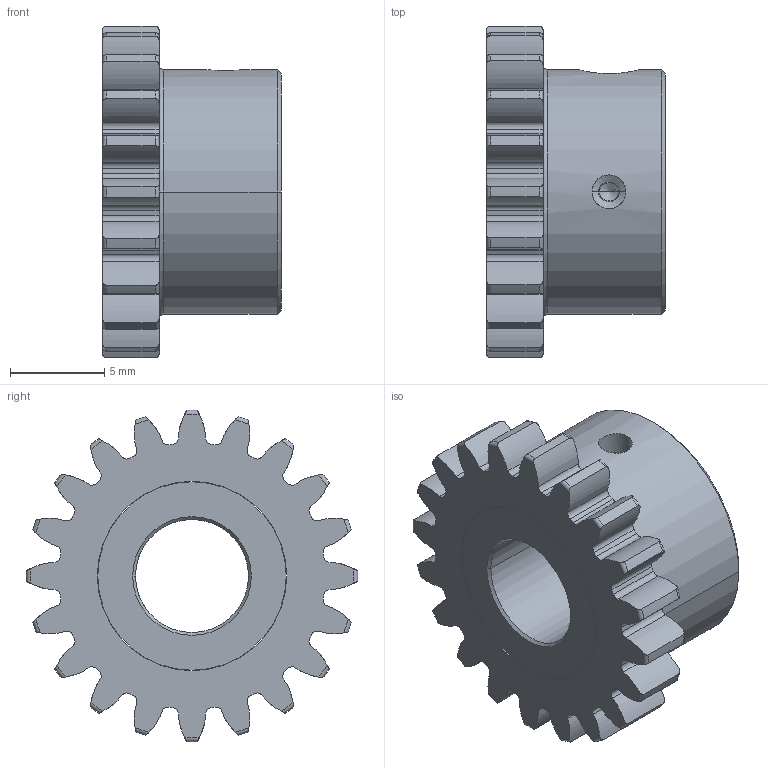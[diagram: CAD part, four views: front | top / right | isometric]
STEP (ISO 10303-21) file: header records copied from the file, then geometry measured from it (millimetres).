
FILE_DESCRIPTION((''),'2;1');
FILE_NAME('A_1P_2MYD08020D','2015-04-07T',('carefree'),(''),'PRO/ENGINEER BY PARAMETRIC TECHNOLOGY CORPORATION, 2010020','PRO/ENGINEER BY PARAMETRIC TECHNOLOGY CORPORATION, 2010020','');
FILE_SCHEMA(('AUTOMOTIVE_DESIGN { 1 0 10303 214 1 1 1 1 }'));
Length unit declared in the file: millimetre
Products named in the file (1): A_1P_2MYD08020D
Bounding box: 9.5 x 17.6 x 17.6 mm (x, y, z)
Volume: 1164.3 mm3; surface area: 1704 mm2
Topology: 3 solids, 3 shells, 216 faces, 605 edges, 393 vertices
Faces by surface type: cylinder 98, torus 42, extrusion 40, plane 20, cone 14, bspline 2
Entity records: 9643 total; most frequent: CARTESIAN_POINT 3864, ORIENTED_EDGE 1206, DIRECTION 1057, EDGE_CURVE 603, AXIS2_PLACEMENT_3D 416, VERTEX_POINT 393, CIRCLE 242, EDGE_LOOP 226
